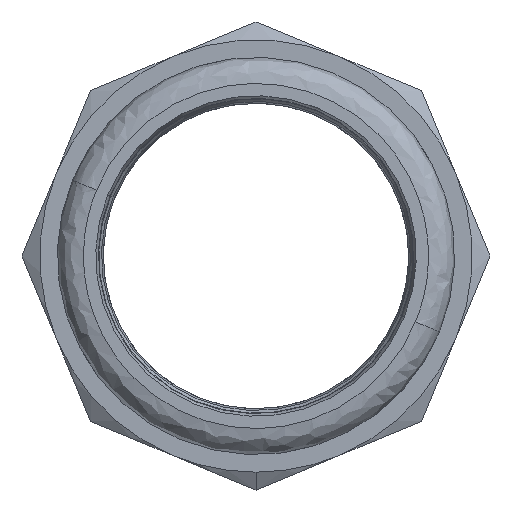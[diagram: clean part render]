
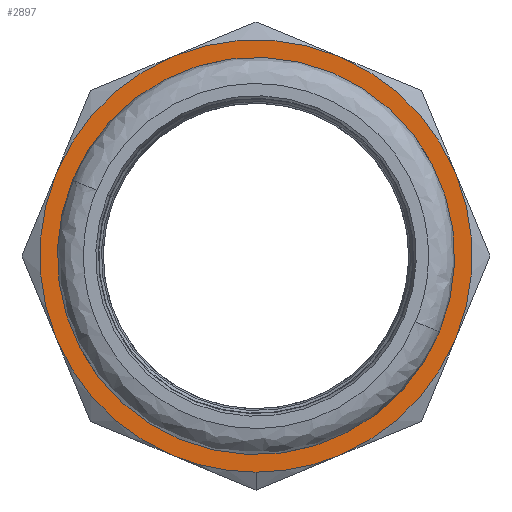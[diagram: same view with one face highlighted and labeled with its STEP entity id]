
A CAD part, left-side view. The second image highlights one B-rep face of the part: STEP entity #2897.
In plain terms, the highlighted planar face has unit normal (-1, 0, 0) as drawn and (0, 1, 0) by its records, which use the part's own axes.
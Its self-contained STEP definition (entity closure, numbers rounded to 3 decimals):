
#33 = DIRECTION ( 'NONE',  ( 0., 1., 0. ) ) ;
#62 = CARTESIAN_POINT ( 'NONE',  ( 0., 23., 0. ) ) ;
#65 = DIRECTION ( 'NONE',  ( 0., 1., 0. ) ) ;
#163 = FACE_BOUND ( 'NONE', #5230, .T. ) ;
#232 = VERTEX_POINT ( 'NONE', #3358 ) ;
#245 = EDGE_CURVE ( 'NONE', #2757, #232, #3507, .T. ) ;
#250 = CARTESIAN_POINT ( 'NONE',  ( 0., 23., 0. ) ) ;
#290 = DIRECTION ( 'NONE',  ( 0., 0., -1. ) ) ;
#379 = DIRECTION ( 'NONE',  ( 0., 0., -1. ) ) ;
#406 = CIRCLE ( 'NONE', #2220, 29. ) ;
#492 = FACE_OUTER_BOUND ( 'NONE', #1173, .T. ) ;
#679 = DIRECTION ( 'NONE',  ( 0., 0., -1. ) ) ;
#734 = ORIENTED_EDGE ( 'NONE', *, *, #4935, .T. ) ;
#781 = VERTEX_POINT ( 'NONE', #976 ) ;
#802 = ORIENTED_EDGE ( 'NONE', *, *, #5184, .T. ) ;
#902 = VERTEX_POINT ( 'NONE', #2748 ) ;
#909 = EDGE_CURVE ( 'NONE', #232, #5379, #3642, .T. ) ;
#976 = CARTESIAN_POINT ( 'NONE',  ( 26.793, 23., -11.098 ) ) ;
#986 = AXIS2_PLACEMENT_3D ( 'NONE', #4492, #1088, #679 ) ;
#1079 = DIRECTION ( 'NONE',  ( 0., 1., 0. ) ) ;
#1088 = DIRECTION ( 'NONE',  ( 0., 1., 0. ) ) ;
#1124 = CARTESIAN_POINT ( 'NONE',  ( 0., 23., 0. ) ) ;
#1144 = ORIENTED_EDGE ( 'NONE', *, *, #909, .T. ) ;
#1146 = EDGE_CURVE ( 'NONE', #902, #2460, #1281, .T. ) ;
#1170 = PLANE ( 'NONE',  #3955 ) ;
#1173 = EDGE_LOOP ( 'NONE', ( #734, #1315, #5189, #1934, #1854, #3102, #1493, #1144, #1192 ) ) ;
#1192 = ORIENTED_EDGE ( 'NONE', *, *, #4787, .T. ) ;
#1216 = VERTEX_POINT ( 'NONE', #1798 ) ;
#1276 = CARTESIAN_POINT ( 'NONE',  ( 0., 23., 0. ) ) ;
#1281 = CIRCLE ( 'NONE', #5349, 29. ) ;
#1315 = ORIENTED_EDGE ( 'NONE', *, *, #1460, .T. ) ;
#1392 = AXIS2_PLACEMENT_3D ( 'NONE', #4535, #2860, #379 ) ;
#1460 = EDGE_CURVE ( 'NONE', #4818, #3962, #5126, .T. ) ;
#1493 = ORIENTED_EDGE ( 'NONE', *, *, #245, .T. ) ;
#1617 = AXIS2_PLACEMENT_3D ( 'NONE', #3395, #2441, #2537 ) ;
#1625 = CARTESIAN_POINT ( 'NONE',  ( -11.098, 23., -26.793 ) ) ;
#1798 = CARTESIAN_POINT ( 'NONE',  ( -26.793, 23., -11.098 ) ) ;
#1824 = DIRECTION ( 'NONE',  ( 0., 0., -1. ) ) ;
#1854 = ORIENTED_EDGE ( 'NONE', *, *, #2508, .T. ) ;
#1934 = ORIENTED_EDGE ( 'NONE', *, *, #1146, .T. ) ;
#1938 = CARTESIAN_POINT ( 'NONE',  ( 0., 23., 0. ) ) ;
#1993 = CARTESIAN_POINT ( 'NONE',  ( -26.793, 23., 11.098 ) ) ;
#2046 = AXIS2_PLACEMENT_3D ( 'NONE', #1124, #3189, #2847 ) ;
#2090 = CIRCLE ( 'NONE', #2046, 23.15 ) ;
#2116 = CIRCLE ( 'NONE', #986, 29. ) ;
#2117 = DIRECTION ( 'NONE',  ( 0., 1., 0. ) ) ;
#2220 = AXIS2_PLACEMENT_3D ( 'NONE', #4016, #4507, #3684 ) ;
#2268 = CIRCLE ( 'NONE', #3219, 23.15 ) ;
#2323 = ORIENTED_EDGE ( 'NONE', *, *, #4713, .T. ) ;
#2441 = DIRECTION ( 'NONE',  ( 0., 1., 0. ) ) ;
#2460 = VERTEX_POINT ( 'NONE', #3234 ) ;
#2461 = DIRECTION ( 'NONE',  ( 0., 0., -1. ) ) ;
#2508 = EDGE_CURVE ( 'NONE', #2460, #781, #2116, .T. ) ;
#2529 = DIRECTION ( 'NONE',  ( 0., 0., -1. ) ) ;
#2537 = DIRECTION ( 'NONE',  ( 0., 0., -1. ) ) ;
#2615 = AXIS2_PLACEMENT_3D ( 'NONE', #4613, #33, #1824 ) ;
#2748 = CARTESIAN_POINT ( 'NONE',  ( 11.098, 23., 26.793 ) ) ;
#2757 = VERTEX_POINT ( 'NONE', #4500 ) ;
#2847 = DIRECTION ( 'NONE',  ( 0., 0., 1. ) ) ;
#2856 = CARTESIAN_POINT ( 'NONE',  ( 0., 23., -23.15 ) ) ;
#2860 = DIRECTION ( 'NONE',  ( 0., 1., 0. ) ) ;
#2897 = ADVANCED_FACE ( 'NONE', ( #492, #163 ), #1170, .T. ) ;
#2976 = DIRECTION ( 'NONE',  ( 0., 1., 0. ) ) ;
#3102 = ORIENTED_EDGE ( 'NONE', *, *, #4653, .T. ) ;
#3132 = CIRCLE ( 'NONE', #5192, 29. ) ;
#3189 = DIRECTION ( 'NONE',  ( 0., -1., 0. ) ) ;
#3219 = AXIS2_PLACEMENT_3D ( 'NONE', #1938, #4401, #4463 ) ;
#3234 = CARTESIAN_POINT ( 'NONE',  ( 26.793, 23., 11.098 ) ) ;
#3307 = DIRECTION ( 'NONE',  ( 0., 1., 0. ) ) ;
#3358 = CARTESIAN_POINT ( 'NONE',  ( 0., 23., -29. ) ) ;
#3395 = CARTESIAN_POINT ( 'NONE',  ( 0., 23., 0. ) ) ;
#3507 = CIRCLE ( 'NONE', #2615, 29. ) ;
#3526 = CIRCLE ( 'NONE', #4658, 29. ) ;
#3642 = CIRCLE ( 'NONE', #1392, 29. ) ;
#3684 = DIRECTION ( 'NONE',  ( 0., 0., -1. ) ) ;
#3695 = CARTESIAN_POINT ( 'NONE',  ( 0., 23., 0. ) ) ;
#3924 = AXIS2_PLACEMENT_3D ( 'NONE', #4490, #3307, #2461 ) ;
#3955 = AXIS2_PLACEMENT_3D ( 'NONE', #3695, #65, #4661 ) ;
#3962 = VERTEX_POINT ( 'NONE', #5286 ) ;
#3982 = CIRCLE ( 'NONE', #1617, 29. ) ;
#4016 = CARTESIAN_POINT ( 'NONE',  ( 0., 23., 0. ) ) ;
#4160 = VERTEX_POINT ( 'NONE', #5073 ) ;
#4401 = DIRECTION ( 'NONE',  ( 0., -1., 0. ) ) ;
#4419 = VERTEX_POINT ( 'NONE', #2856 ) ;
#4463 = DIRECTION ( 'NONE',  ( 0., 0., 1. ) ) ;
#4490 = CARTESIAN_POINT ( 'NONE',  ( 0., 23., 0. ) ) ;
#4492 = CARTESIAN_POINT ( 'NONE',  ( 0., 23., 0. ) ) ;
#4500 = CARTESIAN_POINT ( 'NONE',  ( 11.098, 23., -26.793 ) ) ;
#4507 = DIRECTION ( 'NONE',  ( 0., 1., 0. ) ) ;
#4535 = CARTESIAN_POINT ( 'NONE',  ( 0., 23., 0. ) ) ;
#4613 = CARTESIAN_POINT ( 'NONE',  ( 0., 23., 0. ) ) ;
#4653 = EDGE_CURVE ( 'NONE', #781, #2757, #406, .T. ) ;
#4658 = AXIS2_PLACEMENT_3D ( 'NONE', #250, #1079, #290 ) ;
#4661 = DIRECTION ( 'NONE',  ( 0., 0., 1. ) ) ;
#4678 = DIRECTION ( 'NONE',  ( 0., 0., -1. ) ) ;
#4713 = EDGE_CURVE ( 'NONE', #4160, #4419, #2090, .T. ) ;
#4787 = EDGE_CURVE ( 'NONE', #5379, #1216, #3132, .T. ) ;
#4818 = VERTEX_POINT ( 'NONE', #1993 ) ;
#4935 = EDGE_CURVE ( 'NONE', #1216, #4818, #3982, .T. ) ;
#5073 = CARTESIAN_POINT ( 'NONE',  ( 0., 23., 23.15 ) ) ;
#5126 = CIRCLE ( 'NONE', #3924, 29. ) ;
#5184 = EDGE_CURVE ( 'NONE', #4419, #4160, #2268, .T. ) ;
#5189 = ORIENTED_EDGE ( 'NONE', *, *, #5228, .T. ) ;
#5192 = AXIS2_PLACEMENT_3D ( 'NONE', #1276, #2117, #2529 ) ;
#5228 = EDGE_CURVE ( 'NONE', #3962, #902, #3526, .T. ) ;
#5230 = EDGE_LOOP ( 'NONE', ( #2323, #802 ) ) ;
#5286 = CARTESIAN_POINT ( 'NONE',  ( -11.098, 23., 26.793 ) ) ;
#5349 = AXIS2_PLACEMENT_3D ( 'NONE', #62, #2976, #4678 ) ;
#5379 = VERTEX_POINT ( 'NONE', #1625 ) ;
